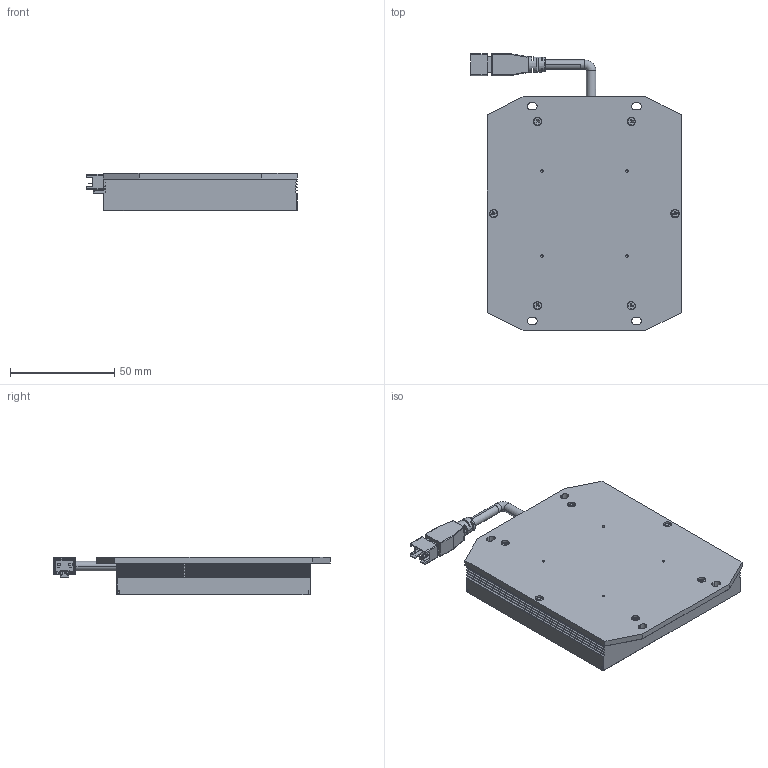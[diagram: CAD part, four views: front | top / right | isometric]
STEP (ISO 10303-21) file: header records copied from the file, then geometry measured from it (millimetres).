
FILE_DESCRIPTION((''),'2;1');
FILE_NAME('PRT0002','2022-11-04T18:25:55',('lizhoupeng'),(''),'CREO PARAMETRIC BY PTC INC, 2020044','CREO PARAMETRIC BY PTC INC, 2020044','');
FILE_SCHEMA(('CONFIG_CONTROL_DESIGN'));
Length unit declared in the file: millimetre
Products named in the file (1): PRT0002
Bounding box: 101.05 x 132.75 x 18 mm (x, y, z)
Volume: 161770.7 mm3; surface area: 31656.1 mm2
Topology: 1 solids, 29 shells, 1011 faces, 2443 edges, 1499 vertices
Faces by surface type: plane 610, cylinder 266, cone 81, torus 38, sphere 8, bspline 8
Entity records: 29570 total; most frequent: CARTESIAN_POINT 5946, DIRECTION 4916, ORIENTED_EDGE 4854, EDGE_CURVE 2427, AXIS2_PLACEMENT_3D 1679, VECTOR 1558, LINE 1558, VERTEX_POINT 1499
